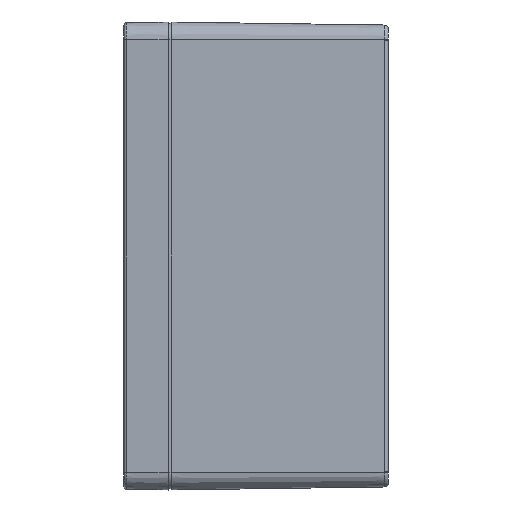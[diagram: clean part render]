
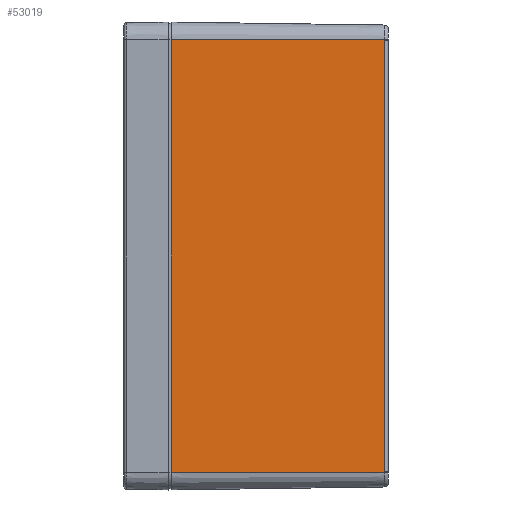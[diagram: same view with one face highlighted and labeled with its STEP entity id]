
A CAD part, left-side view. The second image highlights one B-rep face of the part: STEP entity #53019.
In plain terms, the highlighted planar face has unit normal (-1, -0.014, 0).
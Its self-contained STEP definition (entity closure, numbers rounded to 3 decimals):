
#1047 = DIRECTION ( 'NONE',  ( -1., -0.014, 0. ) ) ;
#1906 = VERTEX_POINT ( 'NONE', #63200 ) ;
#3231 = EDGE_LOOP ( 'NONE', ( #36748, #32667, #24868, #4706, #28739, #51997 ) ) ;
#3990 = CARTESIAN_POINT ( 'NONE',  ( -118.769, -73.867, 73.557 ) ) ;
#4706 = ORIENTED_EDGE ( 'NONE', *, *, #9799, .T. ) ;
#5505 = CARTESIAN_POINT ( 'NONE',  ( -119.8, 0., 73.85 ) ) ;
#5659 = B_SPLINE_CURVE_WITH_KNOTS ( 'NONE', 3,
 ( #59559, #19187, #39190, #49232, #15302, #24673, #54413 ),
 .UNSPECIFIED., .F., .F.,
 ( 4, 3, 4 ),
 ( 0., 0., 0. ),
 .UNSPECIFIED. ) ;
#5822 = DIRECTION ( 'NONE',  ( -0.014, 1., 0. ) ) ;
#7251 = AXIS2_PLACEMENT_3D ( 'NONE', #45348, #1047, #45663 ) ;
#8454 = EDGE_CURVE ( 'NONE', #1906, #23131, #50541, .T. ) ;
#8840 = CARTESIAN_POINT ( 'NONE',  ( -118.769, -73.867, -73.557 ) ) ;
#9799 = EDGE_CURVE ( 'NONE', #15969, #47194, #5659, .T. ) ;
#12092 = CARTESIAN_POINT ( 'NONE',  ( -119.786, -1., -73.85 ) ) ;
#15302 = CARTESIAN_POINT ( 'NONE',  ( -118.769, -73.867, -73.595 ) ) ;
#15969 = VERTEX_POINT ( 'NONE', #45584 ) ;
#19187 = CARTESIAN_POINT ( 'NONE',  ( -118.769, -73.868, -73.771 ) ) ;
#22452 = CARTESIAN_POINT ( 'NONE',  ( -118.769, -73.868, 73.693 ) ) ;
#22734 = VECTOR ( 'NONE', #55034, 1000. ) ;
#23131 = VERTEX_POINT ( 'NONE', #12092 ) ;
#24536 = VECTOR ( 'NONE', #61529, 1000. ) ;
#24673 = CARTESIAN_POINT ( 'NONE',  ( -118.769, -73.867, -73.576 ) ) ;
#24868 = ORIENTED_EDGE ( 'NONE', *, *, #30887, .F. ) ;
#27629 = CARTESIAN_POINT ( 'NONE',  ( -118.769, -73.867, 73.85 ) ) ;
#27632 = CARTESIAN_POINT ( 'NONE',  ( -118.769, -73.867, 73.576 ) ) ;
#27841 = EDGE_CURVE ( 'NONE', #49124, #54068, #32295, .T. ) ;
#28739 = ORIENTED_EDGE ( 'NONE', *, *, #42209, .T. ) ;
#30800 = CARTESIAN_POINT ( 'NONE',  ( -118.769, -73.868, 73.85 ) ) ;
#30887 = EDGE_CURVE ( 'NONE', #15969, #23131, #48921, .T. ) ;
#32295 = B_SPLINE_CURVE_WITH_KNOTS ( 'NONE', 3,
 ( #3990, #27632, #62827, #53156, #22452, #57022, #41855 ),
 .UNSPECIFIED., .F., .F.,
 ( 4, 3, 4 ),
 ( 0., 0., 0. ),
 .UNSPECIFIED. ) ;
#32667 = ORIENTED_EDGE ( 'NONE', *, *, #8454, .T. ) ;
#35304 = CARTESIAN_POINT ( 'NONE',  ( -119.8, 0., -73.85 ) ) ;
#36748 = ORIENTED_EDGE ( 'NONE', *, *, #37722, .T. ) ;
#37722 = EDGE_CURVE ( 'NONE', #54068, #1906, #59786, .T. ) ;
#39190 = CARTESIAN_POINT ( 'NONE',  ( -118.769, -73.868, -73.693 ) ) ;
#41492 = CARTESIAN_POINT ( 'NONE',  ( -119.786, -1., 73.85 ) ) ;
#41855 = CARTESIAN_POINT ( 'NONE',  ( -118.769, -73.868, 73.85 ) ) ;
#42209 = EDGE_CURVE ( 'NONE', #47194, #49124, #60912, .T. ) ;
#42894 = VECTOR ( 'NONE', #56390, 1000. ) ;
#44733 = PLANE ( 'NONE',  #7251 ) ;
#45348 = CARTESIAN_POINT ( 'NONE',  ( -119.8, 0., 73.85 ) ) ;
#45584 = CARTESIAN_POINT ( 'NONE',  ( -118.769, -73.868, -73.85 ) ) ;
#45663 = DIRECTION ( 'NONE',  ( 0.014, -1., 0. ) ) ;
#47194 = VERTEX_POINT ( 'NONE', #8840 ) ;
#48921 = LINE ( 'NONE', #35304, #22734 ) ;
#49124 = VERTEX_POINT ( 'NONE', #59168 ) ;
#49232 = CARTESIAN_POINT ( 'NONE',  ( -118.769, -73.867, -73.614 ) ) ;
#50196 = FACE_OUTER_BOUND ( 'NONE', #3231, .T. ) ;
#50541 = LINE ( 'NONE', #41492, #24536 ) ;
#51997 = ORIENTED_EDGE ( 'NONE', *, *, #27841, .T. ) ;
#53019 = ADVANCED_FACE ( 'NONE', ( #50196 ), #44733, .T. ) ;
#53156 = CARTESIAN_POINT ( 'NONE',  ( -118.769, -73.867, 73.614 ) ) ;
#54068 = VERTEX_POINT ( 'NONE', #30800 ) ;
#54413 = CARTESIAN_POINT ( 'NONE',  ( -118.769, -73.867, -73.557 ) ) ;
#55034 = DIRECTION ( 'NONE',  ( -0.014, 1., 0. ) ) ;
#56390 = DIRECTION ( 'NONE',  ( 0., 0., 1. ) ) ;
#57022 = CARTESIAN_POINT ( 'NONE',  ( -118.769, -73.868, 73.771 ) ) ;
#59168 = CARTESIAN_POINT ( 'NONE',  ( -118.769, -73.867, 73.557 ) ) ;
#59559 = CARTESIAN_POINT ( 'NONE',  ( -118.769, -73.868, -73.85 ) ) ;
#59786 = LINE ( 'NONE', #5505, #62103 ) ;
#60912 = LINE ( 'NONE', #27629, #42894 ) ;
#61529 = DIRECTION ( 'NONE',  ( 0., 0., -1. ) ) ;
#62103 = VECTOR ( 'NONE', #5822, 1000. ) ;
#62827 = CARTESIAN_POINT ( 'NONE',  ( -118.769, -73.867, 73.595 ) ) ;
#63200 = CARTESIAN_POINT ( 'NONE',  ( -119.786, -1., 73.85 ) ) ;
